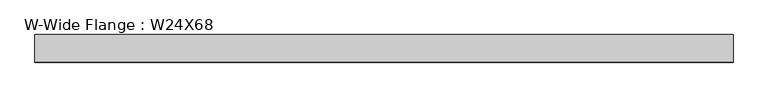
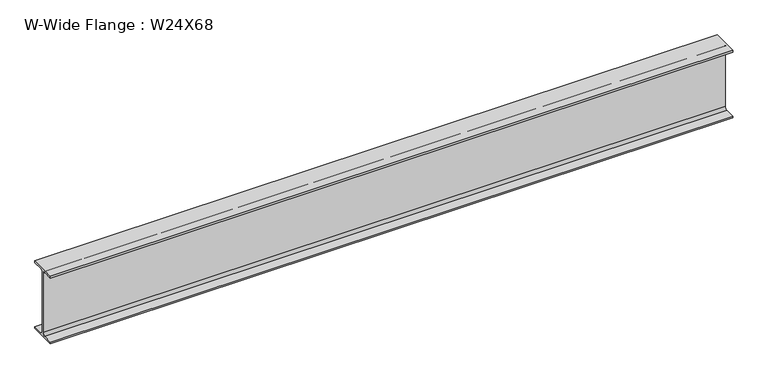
"""IFC4 building model written with IfcOpenShell, lengths in millimetres: beam geometry, W-Wide Flange : W24X68."""

from ifc_helpers import new_model, si_unit, point, frame, frame_2d, origin, place, context, project, spatial, polyline, circle_curve, trimmed, segment, composite_curve, outline, extrude, source, transform, mapped, element, save


def w_wide_flange_w24x68_5163ce4e(model_context):
    return source(origin(), model_context, "Body", "SweptSolid", [
        extrude(outline(composite_curve([segment(polyline([(113.919, -286.131), (113.919, -300.99), (-113.919, -300.99), (-113.919, -286.131), (-28.5115, -286.131)]), True, "CONTINUOUS"), segment(trimmed(circle_curve(frame_2d((-28.5115, -262.89)), 23.241), [point((-28.5115, -286.131))], [point((-5.2705, -262.89))], True, "CARTESIAN"), True, "CONTINUOUS"), segment(polyline([(-5.2705, -262.89), (-5.2705, 262.89)]), True, "CONTINUOUS"), segment(trimmed(circle_curve(frame_2d((-28.5115, 262.89)), 23.241), [point((-5.2705, 262.89))], [point((-28.5115, 286.131))], True, "CARTESIAN"), True, "CONTINUOUS"), segment(polyline([(-28.5115, 286.131), (-113.919, 286.131), (-113.919, 300.99), (113.919, 300.99), (113.919, 286.131), (28.5115, 286.131)]), True, "CONTINUOUS"), segment(trimmed(circle_curve(frame_2d((28.5115, 262.89)), 23.241), [point((28.5115, 286.131))], [point((5.2705, 262.89))], True, "CARTESIAN"), True, "CONTINUOUS"), segment(polyline([(5.2705, 262.89), (5.2705, -262.89)]), True, "CONTINUOUS"), segment(trimmed(circle_curve(frame_2d((28.5115, -262.89)), 23.241), [point((5.2705, -262.89))], [point((28.5115, -286.131))], True, "CARTESIAN"), True, "CONTINUOUS"), segment(polyline([(28.5115, -286.131), (113.919, -286.131)]), True, "CONTINUOUS")], self_intersect=False)), frame((-2882.9, 0.0, 0.0), z_axis=(1.0, 0.0, 0.0), x_axis=(0.0, 1.0, 0.0)), (0.0, 0.0, 1.0), 5765.8),
    ])


if __name__ == "__main__":
    model = new_model("IFC4")
    model_context = context("Model", 3, world=origin())
    ifc_project = project(units=[si_unit("LENGTHUNIT", "METRE", prefix="MILLI")], contexts=[model_context])
    site = spatial("IfcSite", under=ifc_project)
    building = spatial("IfcBuilding", under=site)
    placement = place(None, origin())
    w_wide_flange_w24x68_shape = w_wide_flange_w24x68_5163ce4e(model_context)
    element("IfcBeam", 1, ObjectType="W-Wide Flange : W24X68", at=placement, inside=building, context=model_context, shape_type="MappedRepresentation", body=[
        mapped(w_wide_flange_w24x68_shape, transform((0.0, 0.0, 0.0), x_axis=(1.0, 0.0, 0.0), y_axis=(0.0, 1.0, 0.0), z_axis=(0.0, 0.0, 1.0))),
    ])
    save(model, "model.ifc")
